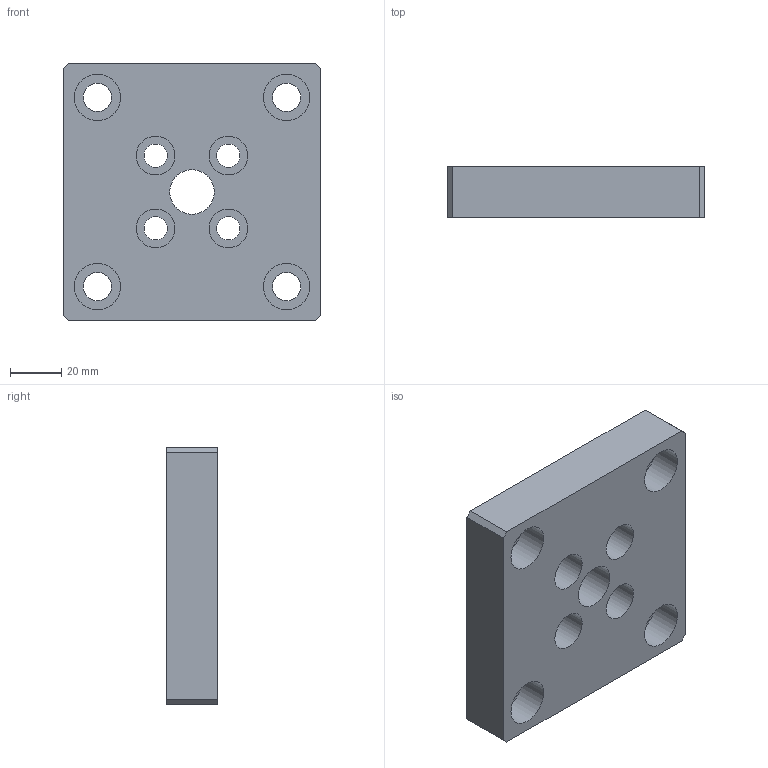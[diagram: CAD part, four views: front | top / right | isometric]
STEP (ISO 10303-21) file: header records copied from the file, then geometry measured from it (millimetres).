
FILE_DESCRIPTION(/* description */ (''),/* implementation_level */ '2;1');
FILE_NAME(/* name */ 'C:\Users\Jefferson\Desktop\Biblioteca Pro Nitro 2024\Flanges\PNB-56-XXX\PNB-56-075.stp',/* time_stamp */ '2024-01-29T14:08:55-03:00',/* author */ ('Jefferson'),/* organization */ (''),/* preprocessor_version */ 'ST-DEVELOPER v18.1',/* originating_system */ 'Autodesk Inventor 2021',/* authorisation */ '');
FILE_SCHEMA (('AUTOMOTIVE_DESIGN { 1 0 10303 214 3 1 1 }'));
Length unit declared in the file: millimetre
Products named in the file (1): PNB-56-075
Bounding box: 100 x 20 x 100 mm (x, y, z)
Volume: 168457.9 mm3; surface area: 34396.4 mm2
Topology: 1 solids, 1 shells, 188 faces, 506 edges, 343 vertices
Faces by surface type: plane 92, bspline 79, cylinder 17
Full cylindrical faces by diameter (mm): 9 x4, 11 x4, 15 x4, 17.294 x1, 18 x4
Entity records: 6388 total; most frequent: CARTESIAN_POINT 2065, ORIENTED_EDGE 1012, DIRECTION 619, EDGE_CURVE 506, VERTEX_POINT 343, LINE 297, VECTOR 297, EDGE_LOOP 229
